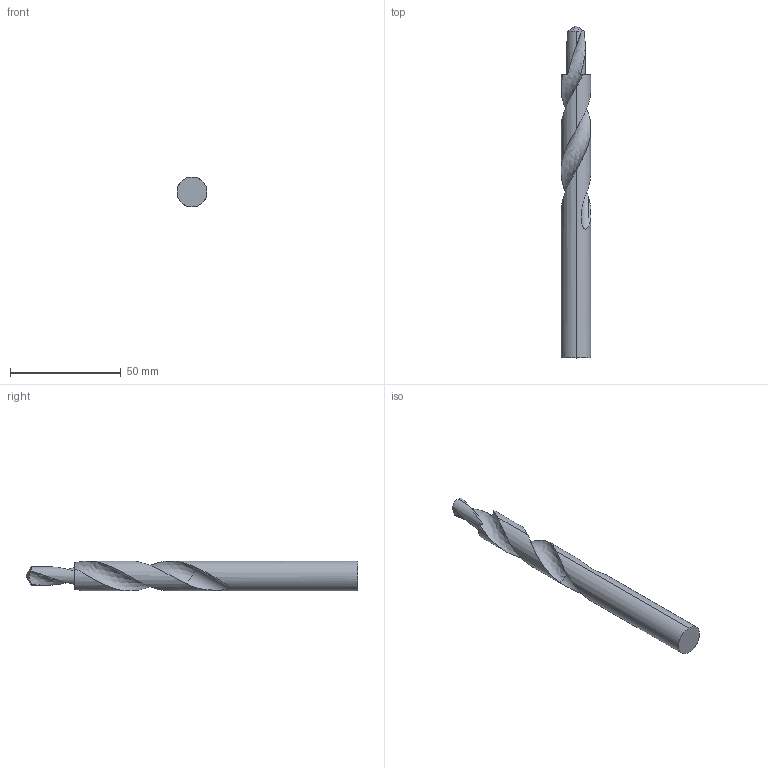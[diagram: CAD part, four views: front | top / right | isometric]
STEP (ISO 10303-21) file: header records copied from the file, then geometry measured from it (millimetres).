
FILE_DESCRIPTION (( 'STEP AP214' ), '1' );
FILE_NAME ('084.818.003.STEP', '2021-02-05T11:01:41', ( '' ), ( '' ), 'SwSTEP 2.0', 'SolidWorks 2018', '' );
FILE_SCHEMA (( 'AUTOMOTIVE_DESIGN' ));
Length unit declared in the file: millimetre
Products named in the file (1): 084.818.003
Bounding box: 13.5 x 149.8 x 13.5 mm (x, y, z)
Volume: 15385 mm3; surface area: 6361.6 mm2
Topology: 1 solids, 1 shells, 18 faces, 48 edges, 30 vertices
Faces by surface type: cylinder 9, plane 5, cone 2, bspline 2
Entity records: 2601 total; most frequent: CARTESIAN_POINT 2191, ORIENTED_EDGE 92, DIRECTION 67, EDGE_CURVE 46, VERTEX_POINT 30, AXIS2_PLACEMENT_3D 29, EDGE_LOOP 18, ADVANCED_FACE 18
